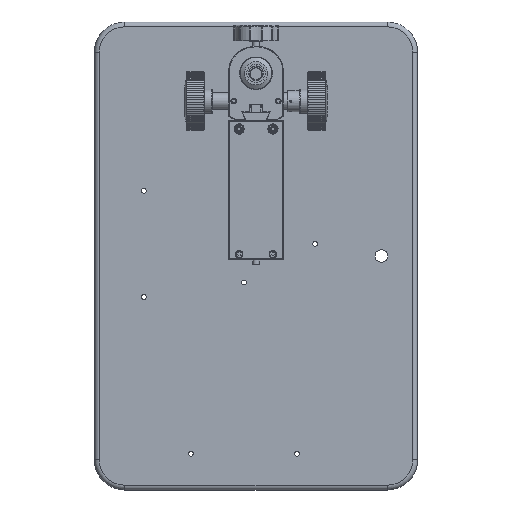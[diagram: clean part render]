
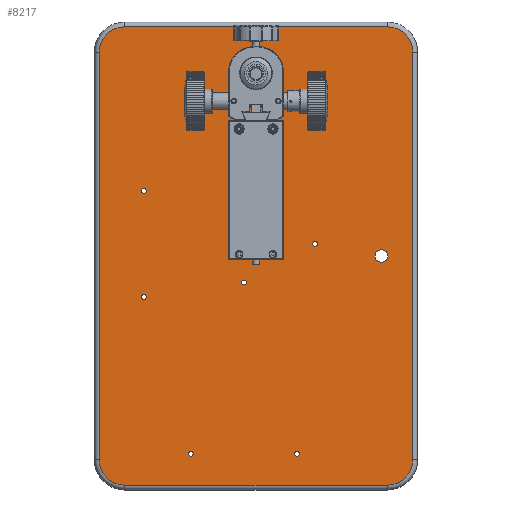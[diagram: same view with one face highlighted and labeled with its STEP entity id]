
A CAD part, top view. The second image highlights one B-rep face of the part: STEP entity #8217.
In plain terms, the highlighted planar face has unit normal (0, 0, 1).
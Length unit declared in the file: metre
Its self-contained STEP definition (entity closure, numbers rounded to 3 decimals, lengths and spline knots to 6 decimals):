
#8217=ADVANCED_FACE('0:28195',(#23854,#23855,#23856,#23857,#23858,#23859,#23860,#23861,#23862,#23863),#23864,.T.);
#8535=EDGE_CURVE('0:29533',#24359,#24359,#24360,.T.);
#8697=EDGE_CURVE('0:29563',#24591,#24598,#24601,.T.);
#8757=EDGE_CURVE('0:29539',#24690,#24690,#24691,.T.);
#8819=EDGE_CURVE('0:29521',#24781,#24781,#24782,.T.);
#8869=EDGE_CURVE('0:29545',#24844,#24851,#24854,.T.);
#8875=EDGE_CURVE('0:29554',#24863,#24860,#24864,.T.);
#8957=EDGE_CURVE('0:29518',#24975,#24975,#24976,.T.);
#9001=EDGE_CURVE('0:29512',#25039,#25039,#25040,.T.);
#9109=EDGE_CURVE('0:29524',#25189,#25189,#25190,.T.);
#9433=EDGE_CURVE('0:29515',#25632,#25632,#25633,.T.);
#9467=EDGE_CURVE('0:29557',#24860,#25678,#25681,.T.);
#9493=EDGE_CURVE('0:29548',#24851,#25711,#25714,.T.);
#9583=EDGE_CURVE('0:29551',#25711,#24863,#25830,.T.);
#9625=EDGE_CURVE('0:29542',#24598,#24844,#25883,.T.);
#9659=EDGE_CURVE('0:29560',#25678,#24591,#25926,.T.);
#9747=EDGE_CURVE('0:29509',#26028,#26028,#26029,.T.);
#9749=EDGE_CURVE('0:29530',#26031,#26031,#26032,.T.);
#23854=FACE_OUTER_BOUND('',#45099,.T.);
#23855=FACE_BOUND('',#45100,.T.);
#23856=FACE_BOUND('',#45101,.T.);
#23857=FACE_BOUND('',#45102,.T.);
#23858=FACE_BOUND('',#45103,.T.);
#23859=FACE_BOUND('',#45104,.T.);
#23860=FACE_BOUND('',#45105,.T.);
#23861=FACE_BOUND('',#45106,.T.);
#23862=FACE_BOUND('',#45107,.T.);
#23863=FACE_BOUND('',#45108,.T.);
#23864=PLANE('',#45109);
#24359=VERTEX_POINT('',#45790);
#24360=CIRCLE('',#45791,0.00525);
#24591=VERTEX_POINT('',#46160);
#24598=VERTEX_POINT('',#46169);
#24601=CIRCLE('',#46173,0.021);
#24690=VERTEX_POINT('',#46306);
#24691=CIRCLE('',#46307,0.00525);
#24781=VERTEX_POINT('',#46442);
#24782=CIRCLE('',#46443,0.002);
#24844=VERTEX_POINT('',#46538);
#24851=VERTEX_POINT('',#46547);
#24854=CIRCLE('',#46551,0.021);
#24860=VERTEX_POINT('',#46559);
#24863=VERTEX_POINT('',#46563);
#24864=LINE('',#46564,#46565);
#24975=VERTEX_POINT('',#46742);
#24976=CIRCLE('',#46743,0.002);
#25039=VERTEX_POINT('',#46842);
#25040=CIRCLE('',#46843,0.002);
#25189=VERTEX_POINT('',#47088);
#25190=CIRCLE('',#47089,0.002);
#25632=VERTEX_POINT('',#47797);
#25633=CIRCLE('',#47798,0.002);
#25678=VERTEX_POINT('',#47866);
#25681=CIRCLE('',#47870,0.021);
#25711=VERTEX_POINT('',#47917);
#25714=LINE('',#47921,#47922);
#25830=CIRCLE('',#48110,0.021);
#25883=LINE('',#48202,#48203);
#25926=LINE('',#48269,#48270);
#26028=VERTEX_POINT('',#48445);
#26029=CIRCLE('',#48446,0.002);
#26031=VERTEX_POINT('',#48449);
#26032=CIRCLE('',#48450,0.00525);
#45099=EDGE_LOOP('',(#127917,#127918,#127919,#127920,#127921,#127922,#127923,#127924));
#45100=EDGE_LOOP('',(#127925));
#45101=EDGE_LOOP('',(#127926));
#45102=EDGE_LOOP('',(#127927));
#45103=EDGE_LOOP('',(#127928));
#45104=EDGE_LOOP('',(#127929));
#45105=EDGE_LOOP('',(#127930));
#45106=EDGE_LOOP('',(#127931));
#45107=EDGE_LOOP('',(#127932));
#45108=EDGE_LOOP('',(#127933));
#45109=AXIS2_PLACEMENT_3D('',#127934,#127935,#127936);
#45790=CARTESIAN_POINT('',(-0.06375,0.,0.02557));
#45791=AXIS2_PLACEMENT_3D('',#128924,#128925,#128926);
#46160=CARTESIAN_POINT('',(-0.169,0.13,0.02557));
#46169=CARTESIAN_POINT('',(-0.19,0.109,0.02557));
#46173=AXIS2_PLACEMENT_3D('',#129047,#129048,#129049);
#46306=CARTESIAN_POINT('',(-0.14575,0.,0.02557));
#46307=AXIS2_PLACEMENT_3D('',#129109,#129110,#129111);
#46442=CARTESIAN_POINT('',(-0.052,-0.093,0.02557));
#46443=AXIS2_PLACEMENT_3D('',#129174,#129175,#129176);
#46538=CARTESIAN_POINT('',(-0.19,-0.109,0.02557));
#46547=CARTESIAN_POINT('',(-0.169,-0.13,0.02557));
#46551=AXIS2_PLACEMENT_3D('',#129227,#129228,#129229);
#46559=CARTESIAN_POINT('',(0.19,0.109,0.02557));
#46563=CARTESIAN_POINT('',(0.19,-0.109,0.02557));
#46564=CARTESIAN_POINT('',(0.19,0.0,0.02557));
#46565=VECTOR('',#129236,1.0);
#46742=CARTESIAN_POINT('',(0.036,-0.093,0.02557));
#46743=AXIS2_PLACEMENT_3D('',#129307,#129308,#129309);
#46842=CARTESIAN_POINT('',(0.166,0.034,0.02557));
#46843=AXIS2_PLACEMENT_3D('',#129345,#129346,#129347);
#47088=CARTESIAN_POINT('',(-0.008,0.049,0.02557));
#47089=AXIS2_PLACEMENT_3D('',#129423,#129424,#129425);
#47797=CARTESIAN_POINT('',(0.024,-0.01,0.02557));
#47798=AXIS2_PLACEMENT_3D('',#129701,#129702,#129703);
#47866=CARTESIAN_POINT('',(0.169,0.13,0.02557));
#47870=AXIS2_PLACEMENT_3D('',#129738,#129739,#129740);
#47917=CARTESIAN_POINT('',(0.169,-0.13,0.02557));
#47921=CARTESIAN_POINT('',(0.0,-0.13,0.02557));
#47922=VECTOR('',#129767,1.0);
#48110=AXIS2_PLACEMENT_3D('',#129846,#129847,#129848);
#48202=CARTESIAN_POINT('',(-0.19,0.0,0.02557));
#48203=VECTOR('',#129873,1.0);
#48269=CARTESIAN_POINT('',(0.0,0.13,0.02557));
#48270=VECTOR('',#129910,1.0);
#48445=CARTESIAN_POINT('',(0.166,-0.054,0.02557));
#48446=AXIS2_PLACEMENT_3D('',#129982,#129983,#129984);
#48449=CARTESIAN_POINT('',(0.00525,0.104,0.02557));
#48450=AXIS2_PLACEMENT_3D('',#129985,#129986,#129987);
#127917=ORIENTED_EDGE('',*,*,#9625,.T.);
#127918=ORIENTED_EDGE('',*,*,#8869,.T.);
#127919=ORIENTED_EDGE('',*,*,#9493,.T.);
#127920=ORIENTED_EDGE('',*,*,#9583,.T.);
#127921=ORIENTED_EDGE('',*,*,#8875,.T.);
#127922=ORIENTED_EDGE('',*,*,#9467,.T.);
#127923=ORIENTED_EDGE('',*,*,#9659,.T.);
#127924=ORIENTED_EDGE('',*,*,#8697,.T.);
#127925=ORIENTED_EDGE('',*,*,#9747,.F.);
#127926=ORIENTED_EDGE('',*,*,#9001,.F.);
#127927=ORIENTED_EDGE('',*,*,#9433,.F.);
#127928=ORIENTED_EDGE('',*,*,#8957,.F.);
#127929=ORIENTED_EDGE('',*,*,#8819,.F.);
#127930=ORIENTED_EDGE('',*,*,#9109,.F.);
#127931=ORIENTED_EDGE('',*,*,#8535,.F.);
#127932=ORIENTED_EDGE('',*,*,#8757,.F.);
#127933=ORIENTED_EDGE('',*,*,#9749,.F.);
#127934=CARTESIAN_POINT('',(0.0,0.0,0.02557));
#127935=DIRECTION('',(0.0,0.0,1.0));
#127936=DIRECTION('',(1.0,0.0,0.0));
#128924=CARTESIAN_POINT('',(-0.069,0.,0.02557));
#128925=DIRECTION('',(0.0,0.0,1.0));
#128926=DIRECTION('',(1.0,0.0,0.0));
#129047=CARTESIAN_POINT('',(-0.169,0.109,0.02557));
#129048=DIRECTION('',(0.0,0.0,1.0));
#129049=DIRECTION('',(1.0,0.0,-0.0));
#129109=CARTESIAN_POINT('',(-0.151,0.,0.02557));
#129110=DIRECTION('',(0.0,0.0,1.0));
#129111=DIRECTION('',(1.0,0.0,0.0));
#129174=CARTESIAN_POINT('',(-0.054,-0.093,0.02557));
#129175=DIRECTION('',(0.0,0.0,1.0));
#129176=DIRECTION('',(1.0,0.0,0.0));
#129227=CARTESIAN_POINT('',(-0.169,-0.109,0.02557));
#129228=DIRECTION('',(0.0,0.0,1.0));
#129229=DIRECTION('',(1.0,0.0,-0.0));
#129236=DIRECTION('',(0.0,1.0,0.0));
#129307=CARTESIAN_POINT('',(0.034,-0.093,0.02557));
#129308=DIRECTION('',(0.0,0.0,1.0));
#129309=DIRECTION('',(1.0,0.0,0.0));
#129345=CARTESIAN_POINT('',(0.164,0.034,0.02557));
#129346=DIRECTION('',(0.0,0.0,1.0));
#129347=DIRECTION('',(1.0,0.0,0.0));
#129423=CARTESIAN_POINT('',(-0.01,0.049,0.02557));
#129424=DIRECTION('',(0.0,0.0,1.0));
#129425=DIRECTION('',(1.0,0.0,0.0));
#129701=CARTESIAN_POINT('',(0.022,-0.01,0.02557));
#129702=DIRECTION('',(0.0,0.0,1.0));
#129703=DIRECTION('',(1.0,0.0,0.0));
#129738=CARTESIAN_POINT('',(0.169,0.109,0.02557));
#129739=DIRECTION('',(0.0,0.0,1.0));
#129740=DIRECTION('',(1.0,0.0,-0.0));
#129767=DIRECTION('',(1.0,0.0,-0.0));
#129846=CARTESIAN_POINT('',(0.169,-0.109,0.02557));
#129847=DIRECTION('',(0.0,0.0,1.0));
#129848=DIRECTION('',(1.0,0.0,-0.0));
#129873=DIRECTION('',(0.0,-1.0,0.0));
#129910=DIRECTION('',(-1.0,0.0,0.0));
#129982=CARTESIAN_POINT('',(0.164,-0.054,0.02557));
#129983=DIRECTION('',(0.0,0.0,1.0));
#129984=DIRECTION('',(1.0,0.0,0.0));
#129985=CARTESIAN_POINT('',(0.0,0.104,0.02557));
#129986=DIRECTION('',(0.0,0.0,1.0));
#129987=DIRECTION('',(1.0,0.0,0.0));
